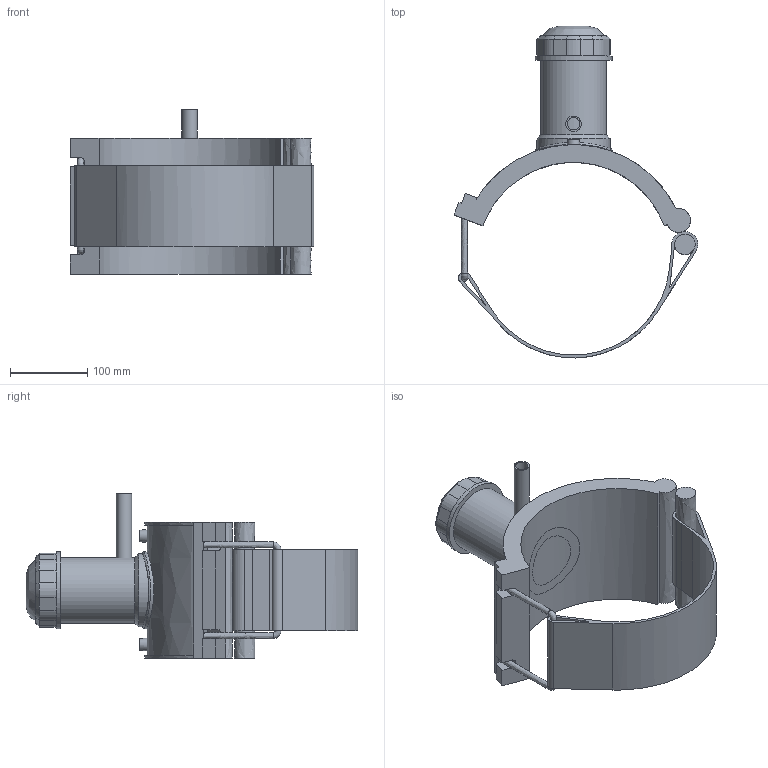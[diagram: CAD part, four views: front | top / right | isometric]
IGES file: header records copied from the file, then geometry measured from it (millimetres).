
Global section: file name: 4963P4250020; native system: Autodesk Inventor 2019; preprocessor: unknown; author: KIM; date: 20220317.113256; units: millimetre
Bounding box: 316.46 x 430.74 x 213 mm (x, y, z)
Volume: 2341928.8 mm3; surface area: 413038.2 mm2
Topology: 3 solids, 3 shells, 118 faces, 297 edges, 193 vertices
Faces by surface type: bspline 118
